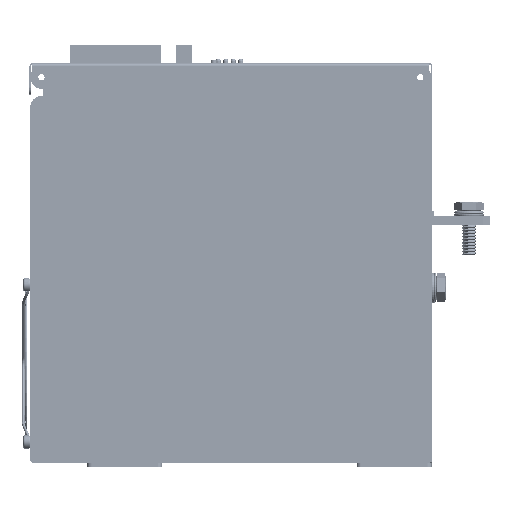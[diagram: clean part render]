
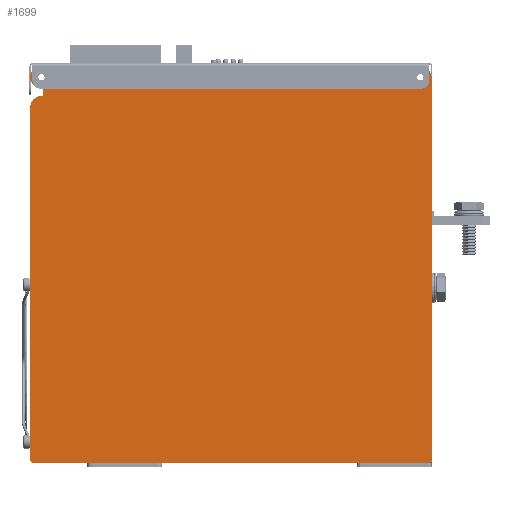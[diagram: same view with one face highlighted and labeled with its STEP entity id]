
A CAD part, left-side view. The second image highlights one B-rep face of the part: STEP entity #1699.
In plain terms, the highlighted planar face has unit normal (-1, 0, 0).
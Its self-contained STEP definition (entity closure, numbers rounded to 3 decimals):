
#1699=ADVANCED_FACE('',(#23200,#23202,#23204),#23206,.F.);
#23200=FACE_BOUND('',#23201,.T.);
#23201=EDGE_LOOP('',(#77287,#77288,#77289,#77290,#77291,#77292,#77293,#77294,#77295,
#77296,#77297,#77298,#77299,#77300,#77301));
#23202=FACE_BOUND('',#23203,.T.);
#23203=EDGE_LOOP('',(#77302));
#23204=FACE_BOUND('',#23205,.T.);
#23205=EDGE_LOOP('',(#77303));
#23206=PLANE('',#23207);
#23207=AXIS2_PLACEMENT_3D('',#23208,#23209,#23210);
#23208=CARTESIAN_POINT('',(-170.809,5.555,108.575));
#23209=DIRECTION('',(1.,0.,0.));
#23210=DIRECTION('',(0.,1.,0.));
#77287=ORIENTED_EDGE('',*,*,#115871,.T.);
#77288=ORIENTED_EDGE('',*,*,#118455,.F.);
#77289=ORIENTED_EDGE('',*,*,#118517,.F.);
#77290=ORIENTED_EDGE('',*,*,#118622,.F.);
#77291=ORIENTED_EDGE('',*,*,#118621,.F.);
#77292=ORIENTED_EDGE('',*,*,#118619,.F.);
#77293=ORIENTED_EDGE('',*,*,#118617,.T.);
#77294=ORIENTED_EDGE('',*,*,#118614,.T.);
#77295=ORIENTED_EDGE('',*,*,#118612,.T.);
#77296=ORIENTED_EDGE('',*,*,#118610,.F.);
#77297=ORIENTED_EDGE('',*,*,#118608,.F.);
#77298=ORIENTED_EDGE('',*,*,#118606,.F.);
#77299=ORIENTED_EDGE('',*,*,#118604,.F.);
#77300=ORIENTED_EDGE('',*,*,#118680,.T.);
#77301=ORIENTED_EDGE('',*,*,#118601,.F.);
#77302=ORIENTED_EDGE('',*,*,#118646,.T.);
#77303=ORIENTED_EDGE('',*,*,#118647,.T.);
#115871=EDGE_CURVE('',#133960,#133958,#133961,.F.);
#118455=EDGE_CURVE('',#138501,#133958,#138503,.F.);
#118517=EDGE_CURVE('',#138586,#138501,#138588,.T.);
#118601=EDGE_CURVE('',#133960,#138692,#138693,.T.);
#118604=EDGE_CURVE('',#138687,#138696,#138697,.T.);
#118606=EDGE_CURVE('',#138696,#138699,#138700,.F.);
#118608=EDGE_CURVE('',#138699,#138702,#138703,.T.);
#118610=EDGE_CURVE('',#138702,#138705,#138706,.F.);
#118612=EDGE_CURVE('',#138708,#138705,#138709,.T.);
#118614=EDGE_CURVE('',#138711,#138708,#138712,.T.);
#118617=EDGE_CURVE('',#138714,#138711,#138716,.T.);
#118619=EDGE_CURVE('',#138714,#138717,#138719,.F.);
#118621=EDGE_CURVE('',#138717,#138720,#138722,.T.);
#118622=EDGE_CURVE('',#138720,#138586,#138723,.F.);
#118646=EDGE_CURVE('',#138759,#138759,#138760,.T.);
#118647=EDGE_CURVE('',#138761,#138761,#138762,.T.);
#118680=EDGE_CURVE('',#138687,#138692,#138797,.F.);
#133958=VERTEX_POINT('',#163997);
#133960=VERTEX_POINT('',#164001);
#133961=LINE('',#164002,#164003);
#138501=VERTEX_POINT('',#174508);
#138503=CIRCLE('',#174512,2.);
#138586=VERTEX_POINT('',#174771);
#138588=LINE('',#174775,#174776);
#138687=VERTEX_POINT('',#175044);
#138692=VERTEX_POINT('',#175057);
#138693=LINE('',#175058,#175059);
#138696=VERTEX_POINT('',#175067);
#138697=LINE('',#175068,#175069);
#138699=VERTEX_POINT('',#175074);
#138700=CIRCLE('',#175075,2.);
#138702=VERTEX_POINT('',#175082);
#138703=LINE('',#175083,#175084);
#138705=VERTEX_POINT('',#175089);
#138706=CIRCLE('',#175090,7.5);
#138708=VERTEX_POINT('',#175097);
#138709=LINE('',#175098,#175099);
#138711=VERTEX_POINT('',#175104);
#138712=LINE('',#175105,#175106);
#138714=VERTEX_POINT('',#175111);
#138716=LINE('',#175115,#175116);
#138717=VERTEX_POINT('',#175118);
#138719=CIRCLE('',#175122,7.5);
#138720=VERTEX_POINT('',#175126);
#138722=LINE('',#175130,#175131);
#138723=CIRCLE('',#175133,7.5);
#138759=VERTEX_POINT('',#175224);
#138760=CIRCLE('',#175225,3.05);
#138761=VERTEX_POINT('',#175229);
#138762=CIRCLE('',#175230,3.05);
#138797=LINE('',#175332,#175333);
#163997=CARTESIAN_POINT('',(-170.809,-126.445,-23.925));
#164001=CARTESIAN_POINT('',(-170.809,-78.445,-23.925));
#164002=CARTESIAN_POINT('',(-170.809,-126.445,-23.925));
#164003=VECTOR('',#164004,1.);
#164004=DIRECTION('',(0.,1.,0.));
#174508=CARTESIAN_POINT('',(-170.809,-128.445,-21.925));
#174512=AXIS2_PLACEMENT_3D('',#174513,#174514,#174515);
#174513=CARTESIAN_POINT('',(-170.809,-126.445,-21.925));
#174514=DIRECTION('',(-1.,0.,0.));
#174515=DIRECTION('',(0.,0.,-1.));
#174771=CARTESIAN_POINT('',(-170.809,-128.445,233.575));
#174775=CARTESIAN_POINT('',(-170.809,-128.445,233.575));
#174776=VECTOR('',#174777,1.);
#174777=DIRECTION('',(0.,0.,-1.));
#175044=CARTESIAN_POINT('',(-170.809,101.555,-23.925));
#175057=CARTESIAN_POINT('',(-170.809,51.555,-23.925));
#175058=CARTESIAN_POINT('',(-170.809,-78.445,-23.925));
#175059=VECTOR('',#175060,1.);
#175060=DIRECTION('',(0.,1.,0.));
#175067=CARTESIAN_POINT('',(-170.809,137.555,-23.925));
#175068=CARTESIAN_POINT('',(-170.809,101.555,-23.925));
#175069=VECTOR('',#175070,1.);
#175070=DIRECTION('',(0.,1.,0.));
#175074=CARTESIAN_POINT('',(-170.809,139.555,-21.925));
#175075=AXIS2_PLACEMENT_3D('',#175076,#175077,#175078);
#175076=CARTESIAN_POINT('',(-170.809,137.555,-21.925));
#175077=DIRECTION('',(-1.,0.,0.));
#175078=DIRECTION('',(0.,1.,0.));
#175082=CARTESIAN_POINT('',(-170.809,139.555,213.575));
#175083=CARTESIAN_POINT('',(-170.809,139.555,-21.925));
#175084=VECTOR('',#175085,1.);
#175085=DIRECTION('',(0.,0.,1.));
#175089=CARTESIAN_POINT('',(-170.809,132.055,221.075));
#175090=AXIS2_PLACEMENT_3D('',#175091,#175092,#175093);
#175091=CARTESIAN_POINT('',(-170.809,132.055,213.575));
#175092=DIRECTION('',(-1.,0.,0.));
#175093=DIRECTION('',(0.,0.,1.));
#175097=CARTESIAN_POINT('',(-170.809,131.055,221.075));
#175098=CARTESIAN_POINT('',(-170.809,131.055,221.075));
#175099=VECTOR('',#175100,1.);
#175100=DIRECTION('',(0.,1.,0.));
#175104=CARTESIAN_POINT('',(-170.809,131.055,226.075));
#175105=CARTESIAN_POINT('',(-170.809,131.055,226.075));
#175106=VECTOR('',#175107,1.);
#175107=DIRECTION('',(0.,0.,-1.));
#175111=CARTESIAN_POINT('',(-170.809,132.055,226.075));
#175115=CARTESIAN_POINT('',(-170.809,132.055,226.075));
#175116=VECTOR('',#175117,1.);
#175117=DIRECTION('',(0.,-1.,0.));
#175118=CARTESIAN_POINT('',(-170.809,132.055,241.075));
#175122=AXIS2_PLACEMENT_3D('',#175123,#175124,#175125);
#175123=CARTESIAN_POINT('',(-170.809,132.055,233.575));
#175124=DIRECTION('',(-1.,0.,0.));
#175125=DIRECTION('',(0.,0.,1.));
#175126=CARTESIAN_POINT('',(-170.809,-120.945,241.075));
#175130=CARTESIAN_POINT('',(-170.809,132.055,241.075));
#175131=VECTOR('',#175132,1.);
#175132=DIRECTION('',(0.,-1.,0.));
#175133=AXIS2_PLACEMENT_3D('',#175134,#175135,#175136);
#175134=CARTESIAN_POINT('',(-170.809,-120.945,233.575));
#175135=DIRECTION('',(-1.,0.,0.));
#175136=DIRECTION('',(0.,-1.,0.));
#175224=CARTESIAN_POINT('',(-170.809,135.105,233.575));
#175225=AXIS2_PLACEMENT_3D('',#175226,#175227,#175228);
#175226=CARTESIAN_POINT('',(-170.809,132.055,233.575));
#175227=DIRECTION('',(1.,0.,0.));
#175228=DIRECTION('',(0.,1.,0.));
#175229=CARTESIAN_POINT('',(-170.809,-117.895,233.575));
#175230=AXIS2_PLACEMENT_3D('',#175231,#175232,#175233);
#175231=CARTESIAN_POINT('',(-170.809,-120.945,233.575));
#175232=DIRECTION('',(1.,0.,0.));
#175233=DIRECTION('',(0.,1.,0.));
#175332=CARTESIAN_POINT('',(-170.809,51.555,-23.925));
#175333=VECTOR('',#175334,1.);
#175334=DIRECTION('',(0.,1.,0.));
